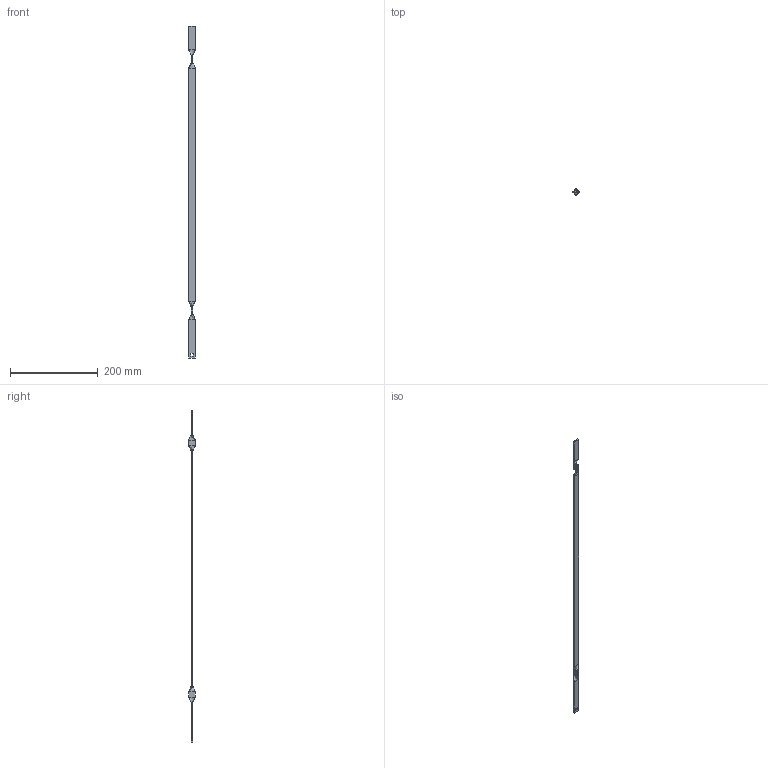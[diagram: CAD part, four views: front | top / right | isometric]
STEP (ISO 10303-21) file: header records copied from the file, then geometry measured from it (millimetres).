
FILE_DESCRIPTION (( 'STEP AP214' ), '1' );
FILE_NAME ('PK290-751.STEP', '2016-08-18T09:40:34', ( 'RST-Dolba' ), ( '' ), 'SwSTEP 2.0', 'SolidWorks 2015', '' );
FILE_SCHEMA (( 'AUTOMOTIVE_DESIGN' ));
Length unit declared in the file: millimetre
Products named in the file (1): PK290-751
Bounding box: 14 x 14 x 758.5 mm (x, y, z)
Volume: 31110.1 mm3; surface area: 25691.8 mm2
Topology: 1 solids, 1 shells, 42 faces, 88 edges, 48 vertices
Faces by surface type: plane 26, bspline 16
Entity records: 1366 total; most frequent: CARTESIAN_POINT 531, ORIENTED_EDGE 176, DIRECTION 126, EDGE_CURVE 88, LINE 72, VECTOR 72, VERTEX_POINT 48, EDGE_LOOP 44
